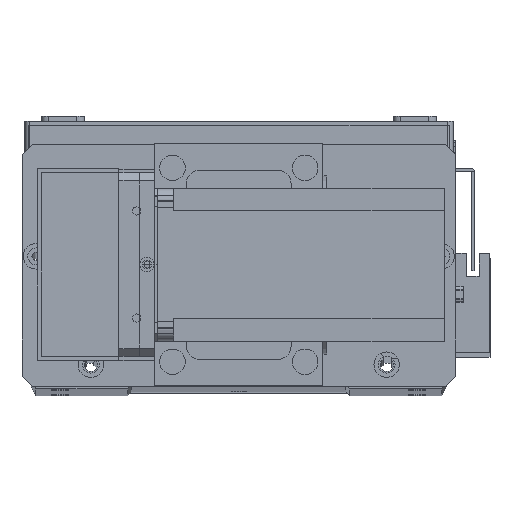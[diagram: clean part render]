
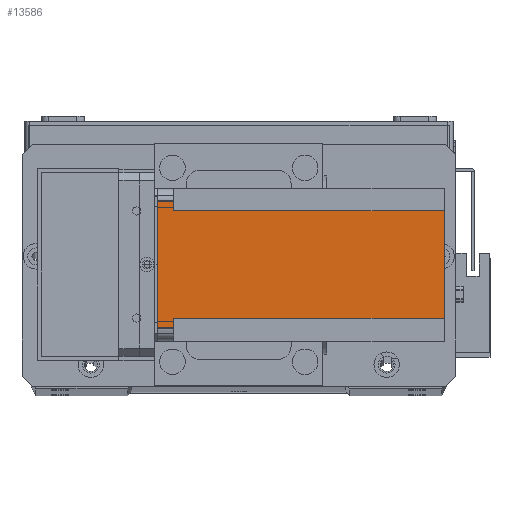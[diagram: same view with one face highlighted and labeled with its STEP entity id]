
A CAD part, top view. The second image highlights one B-rep face of the part: STEP entity #13586.
In plain terms, the highlighted planar face has unit normal (0, 0, 1) as drawn and (-1, 0, 0) by its records, which use the part's own axes.
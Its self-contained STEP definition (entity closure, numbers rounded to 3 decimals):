
#186 = VERTEX_POINT ( 'NONE', #3551 ) ;
#327 = CARTESIAN_POINT ( 'NONE',  ( 0., 51., -112.5 ) ) ;
#739 = VECTOR ( 'NONE', #22867, 1000. ) ;
#886 = CARTESIAN_POINT ( 'NONE',  ( 0., 5., -6.5 ) ) ;
#1312 = VECTOR ( 'NONE', #21470, 1000. ) ;
#3479 = VERTEX_POINT ( 'NONE', #6346 ) ;
#3551 = CARTESIAN_POINT ( 'NONE',  ( 0., 9., -6.5 ) ) ;
#3635 = LINE ( 'NONE', #327, #9531 ) ;
#3832 = EDGE_CURVE ( 'NONE', #8168, #3479, #25767, .T. ) ;
#5113 = VERTEX_POINT ( 'NONE', #21360 ) ;
#5499 = LINE ( 'NONE', #8676, #31288 ) ;
#5550 = LINE ( 'NONE', #23914, #30564 ) ;
#6346 = CARTESIAN_POINT ( 'NONE',  ( 0., 5., 0. ) ) ;
#6760 = CARTESIAN_POINT ( 'NONE',  ( 0., 51., -6.5 ) ) ;
#7859 = DIRECTION ( 'NONE',  ( -1., 0., 0. ) ) ;
#8168 = VERTEX_POINT ( 'NONE', #886 ) ;
#8676 = CARTESIAN_POINT ( 'NONE',  ( 0., 55., -112.5 ) ) ;
#9269 = EDGE_CURVE ( 'NONE', #186, #15245, #22912, .T. ) ;
#9450 = AXIS2_PLACEMENT_3D ( 'NONE', #30238, #7859, #25332 ) ;
#9531 = VECTOR ( 'NONE', #25366, 1000. ) ;
#10228 = EDGE_CURVE ( 'NONE', #19607, #31030, #3635, .T. ) ;
#10355 = CARTESIAN_POINT ( 'NONE',  ( 0., 5., -112.5 ) ) ;
#10434 = CARTESIAN_POINT ( 'NONE',  ( 0., 9., -112.5 ) ) ;
#10628 = ORIENTED_EDGE ( 'NONE', *, *, #32371, .F. ) ;
#11179 = DIRECTION ( 'NONE',  ( 0., 0., -1. ) ) ;
#11316 = CARTESIAN_POINT ( 'NONE',  ( 0., 55., -6.5 ) ) ;
#11390 = CARTESIAN_POINT ( 'NONE',  ( 0., 0., -112.5 ) ) ;
#11428 = CARTESIAN_POINT ( 'NONE',  ( 0., 0., 0. ) ) ;
#11714 = ORIENTED_EDGE ( 'NONE', *, *, #12526, .F. ) ;
#12138 = CARTESIAN_POINT ( 'NONE',  ( 0., 51., -112.5 ) ) ;
#12526 = EDGE_CURVE ( 'NONE', #31030, #18268, #18051, .T. ) ;
#13586 = ADVANCED_FACE ( 'NONE', ( #19898 ), #15300, .T. ) ;
#13707 = DIRECTION ( 'NONE',  ( 0., 0., -1. ) ) ;
#13949 = DIRECTION ( 'NONE',  ( 0., -1., 0. ) ) ;
#15076 = ORIENTED_EDGE ( 'NONE', *, *, #18284, .F. ) ;
#15245 = VERTEX_POINT ( 'NONE', #10434 ) ;
#15300 = PLANE ( 'NONE',  #9450 ) ;
#16214 = CARTESIAN_POINT ( 'NONE',  ( 0., 9., -112.5 ) ) ;
#16944 = ORIENTED_EDGE ( 'NONE', *, *, #9269, .F. ) ;
#18051 = LINE ( 'NONE', #30204, #24700 ) ;
#18268 = VERTEX_POINT ( 'NONE', #11316 ) ;
#18284 = EDGE_CURVE ( 'NONE', #8168, #186, #5550, .T. ) ;
#19607 = VERTEX_POINT ( 'NONE', #12138 ) ;
#19898 = FACE_OUTER_BOUND ( 'NONE', #21892, .T. ) ;
#19958 = ORIENTED_EDGE ( 'NONE', *, *, #21585, .T. ) ;
#20876 = LINE ( 'NONE', #11428, #25947 ) ;
#21360 = CARTESIAN_POINT ( 'NONE',  ( 0., 55., 0. ) ) ;
#21464 = ORIENTED_EDGE ( 'NONE', *, *, #3832, .T. ) ;
#21470 = DIRECTION ( 'NONE',  ( 0., -1., 0. ) ) ;
#21585 = EDGE_CURVE ( 'NONE', #19607, #15245, #27146, .T. ) ;
#21892 = EDGE_LOOP ( 'NONE', ( #15076, #21464, #10628, #32127, #11714, #28907, #19958, #16944 ) ) ;
#22867 = DIRECTION ( 'NONE',  ( 0., 0., 1. ) ) ;
#22912 = LINE ( 'NONE', #16214, #28753 ) ;
#23595 = EDGE_CURVE ( 'NONE', #5113, #18268, #5499, .T. ) ;
#23914 = CARTESIAN_POINT ( 'NONE',  ( 0., 0., -6.5 ) ) ;
#24700 = VECTOR ( 'NONE', #25094, 1000. ) ;
#25094 = DIRECTION ( 'NONE',  ( 0., 1., 0. ) ) ;
#25332 = DIRECTION ( 'NONE',  ( 0., -1., 0. ) ) ;
#25366 = DIRECTION ( 'NONE',  ( 0., 0., 1. ) ) ;
#25767 = LINE ( 'NONE', #10355, #739 ) ;
#25947 = VECTOR ( 'NONE', #13949, 1000. ) ;
#26407 = DIRECTION ( 'NONE',  ( 0., 1., 0. ) ) ;
#27146 = LINE ( 'NONE', #11390, #1312 ) ;
#28753 = VECTOR ( 'NONE', #13707, 1000. ) ;
#28907 = ORIENTED_EDGE ( 'NONE', *, *, #10228, .F. ) ;
#30204 = CARTESIAN_POINT ( 'NONE',  ( 0., 60., -6.5 ) ) ;
#30238 = CARTESIAN_POINT ( 'NONE',  ( 0., 0., -112.5 ) ) ;
#30564 = VECTOR ( 'NONE', #26407, 1000. ) ;
#31030 = VERTEX_POINT ( 'NONE', #6760 ) ;
#31288 = VECTOR ( 'NONE', #11179, 1000. ) ;
#32127 = ORIENTED_EDGE ( 'NONE', *, *, #23595, .T. ) ;
#32371 = EDGE_CURVE ( 'NONE', #5113, #3479, #20876, .T. ) ;
